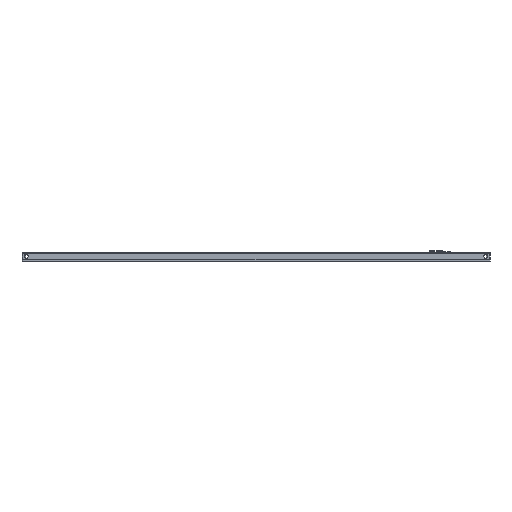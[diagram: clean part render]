
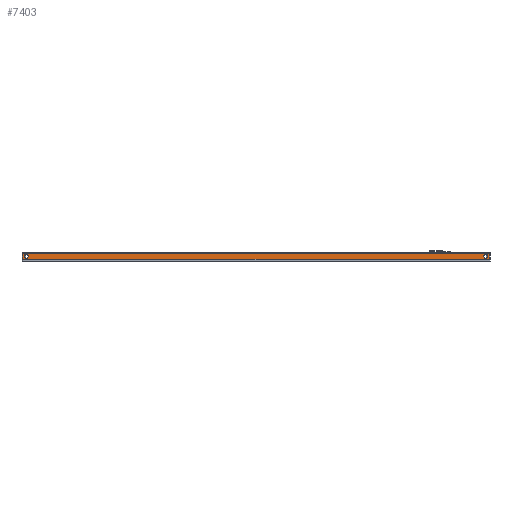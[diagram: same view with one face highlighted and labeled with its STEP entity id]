
A CAD part, left-side view. The second image highlights one B-rep face of the part: STEP entity #7403.
In plain terms, the highlighted planar face has unit normal (-1, 0, 0).
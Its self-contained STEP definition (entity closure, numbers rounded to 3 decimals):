
#52 = ORIENTED_EDGE ( 'NONE', *, *, #805, .T. ) ;
#167 = VERTEX_POINT ( 'NONE', #5693 ) ;
#312 = EDGE_LOOP ( 'NONE', ( #7517, #52, #7931, #9053 ) ) ;
#356 = CARTESIAN_POINT ( 'NONE',  ( -285., -339., -8.5 ) ) ;
#548 = FACE_OUTER_BOUND ( 'NONE', #312, .T. ) ;
#587 = VERTEX_POINT ( 'NONE', #2855 ) ;
#606 = DIRECTION ( 'NONE',  ( 1., 0., 0. ) ) ;
#805 = EDGE_CURVE ( 'NONE', #1820, #7474, #9035, .T. ) ;
#903 = CARTESIAN_POINT ( 'NONE',  ( -285., 334., -4. ) ) ;
#1060 = AXIS2_PLACEMENT_3D ( 'NONE', #7032, #606, #9415 ) ;
#1089 = CIRCLE ( 'NONE', #6613, 3. ) ;
#1153 = DIRECTION ( 'NONE',  ( -1., 0., 0. ) ) ;
#1255 = VECTOR ( 'NONE', #9579, 1000. ) ;
#1262 = CARTESIAN_POINT ( 'NONE',  ( -285., -339., -8.5 ) ) ;
#1319 = DIRECTION ( 'NONE',  ( -1., 0., 0. ) ) ;
#1343 = DIRECTION ( 'NONE',  ( -1., 0., 0. ) ) ;
#1585 = VERTEX_POINT ( 'NONE', #3116 ) ;
#1608 = LINE ( 'NONE', #8601, #3522 ) ;
#1820 = VERTEX_POINT ( 'NONE', #5797 ) ;
#1896 = ORIENTED_EDGE ( 'NONE', *, *, #6121, .F. ) ;
#2014 = VERTEX_POINT ( 'NONE', #356 ) ;
#2141 = EDGE_CURVE ( 'NONE', #7474, #2014, #1608, .T. ) ;
#2287 = CARTESIAN_POINT ( 'NONE',  ( -285., -334., -4. ) ) ;
#2527 = DIRECTION ( 'NONE',  ( -1., 0., 0. ) ) ;
#2855 = CARTESIAN_POINT ( 'NONE',  ( -285., -331., -4. ) ) ;
#3116 = CARTESIAN_POINT ( 'NONE',  ( -285., -337., -4. ) ) ;
#3202 = CARTESIAN_POINT ( 'NONE',  ( -285., 337., -4. ) ) ;
#3522 = VECTOR ( 'NONE', #4015, 1000. ) ;
#3696 = DIRECTION ( 'NONE',  ( 0., 1., 0. ) ) ;
#3941 = DIRECTION ( 'NONE',  ( 0., 1., 0. ) ) ;
#3967 = CARTESIAN_POINT ( 'NONE',  ( -285., 334., -4. ) ) ;
#4015 = DIRECTION ( 'NONE',  ( 0., -1., 0. ) ) ;
#4179 = EDGE_LOOP ( 'NONE', ( #1896, #8350 ) ) ;
#4233 = CIRCLE ( 'NONE', #8626, 3. ) ;
#4984 = AXIS2_PLACEMENT_3D ( 'NONE', #903, #2527, #3696 ) ;
#5039 = DIRECTION ( 'NONE',  ( 0., 0., -1. ) ) ;
#5439 = CARTESIAN_POINT ( 'NONE',  ( -285., 339., -8.5 ) ) ;
#5574 = ORIENTED_EDGE ( 'NONE', *, *, #7475, .F. ) ;
#5693 = CARTESIAN_POINT ( 'NONE',  ( -285., 331., -4. ) ) ;
#5797 = CARTESIAN_POINT ( 'NONE',  ( -285., 339., 0. ) ) ;
#6121 = EDGE_CURVE ( 'NONE', #7307, #167, #1089, .T. ) ;
#6158 = LINE ( 'NONE', #9092, #8456 ) ;
#6375 = EDGE_CURVE ( 'NONE', #167, #7307, #6675, .T. ) ;
#6592 = EDGE_CURVE ( 'NONE', #1820, #10074, #6158, .T. ) ;
#6609 = VECTOR ( 'NONE', #5039, 1000. ) ;
#6613 = AXIS2_PLACEMENT_3D ( 'NONE', #3967, #1343, #8805 ) ;
#6675 = CIRCLE ( 'NONE', #4984, 3. ) ;
#6906 = AXIS2_PLACEMENT_3D ( 'NONE', #2287, #1319, #3941 ) ;
#6954 = DIRECTION ( 'NONE',  ( 0., 1., 0. ) ) ;
#7032 = CARTESIAN_POINT ( 'NONE',  ( -285., 340., -8.5 ) ) ;
#7307 = VERTEX_POINT ( 'NONE', #3202 ) ;
#7403 = ADVANCED_FACE ( 'NONE', ( #8950, #8321, #548 ), #10356, .F. ) ;
#7412 = CARTESIAN_POINT ( 'NONE',  ( -285., 339., -8.5 ) ) ;
#7440 = EDGE_LOOP ( 'NONE', ( #5574, #9979 ) ) ;
#7474 = VERTEX_POINT ( 'NONE', #5439 ) ;
#7475 = EDGE_CURVE ( 'NONE', #587, #1585, #8187, .T. ) ;
#7517 = ORIENTED_EDGE ( 'NONE', *, *, #6592, .F. ) ;
#7931 = ORIENTED_EDGE ( 'NONE', *, *, #2141, .T. ) ;
#8145 = LINE ( 'NONE', #1262, #1255 ) ;
#8175 = EDGE_CURVE ( 'NONE', #1585, #587, #4233, .T. ) ;
#8187 = CIRCLE ( 'NONE', #6906, 3. ) ;
#8321 = FACE_BOUND ( 'NONE', #4179, .T. ) ;
#8350 = ORIENTED_EDGE ( 'NONE', *, *, #6375, .F. ) ;
#8354 = DIRECTION ( 'NONE',  ( 0., -1., 0. ) ) ;
#8456 = VECTOR ( 'NONE', #8354, 1000. ) ;
#8601 = CARTESIAN_POINT ( 'NONE',  ( -285., 340., -8.5 ) ) ;
#8626 = AXIS2_PLACEMENT_3D ( 'NONE', #10077, #1153, #6954 ) ;
#8805 = DIRECTION ( 'NONE',  ( 0., 1., 0. ) ) ;
#8950 = FACE_BOUND ( 'NONE', #7440, .T. ) ;
#9035 = LINE ( 'NONE', #7412, #6609 ) ;
#9053 = ORIENTED_EDGE ( 'NONE', *, *, #9243, .T. ) ;
#9092 = CARTESIAN_POINT ( 'NONE',  ( -285., 340., 0. ) ) ;
#9243 = EDGE_CURVE ( 'NONE', #2014, #10074, #8145, .T. ) ;
#9415 = DIRECTION ( 'NONE',  ( 0., -1., 0. ) ) ;
#9579 = DIRECTION ( 'NONE',  ( 0., 0., 1. ) ) ;
#9741 = CARTESIAN_POINT ( 'NONE',  ( -285., -339., 0. ) ) ;
#9979 = ORIENTED_EDGE ( 'NONE', *, *, #8175, .F. ) ;
#10074 = VERTEX_POINT ( 'NONE', #9741 ) ;
#10077 = CARTESIAN_POINT ( 'NONE',  ( -285., -334., -4. ) ) ;
#10356 = PLANE ( 'NONE',  #1060 ) ;
